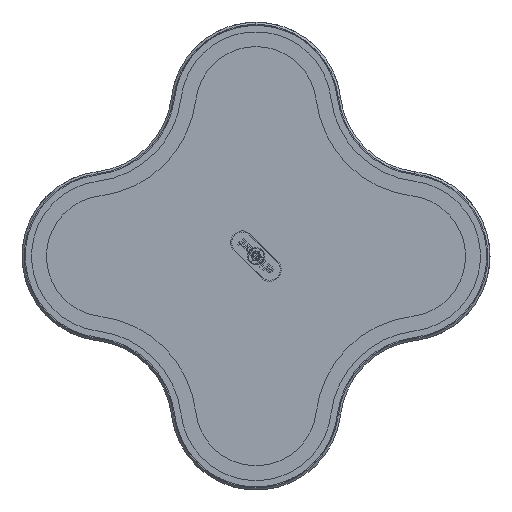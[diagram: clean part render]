
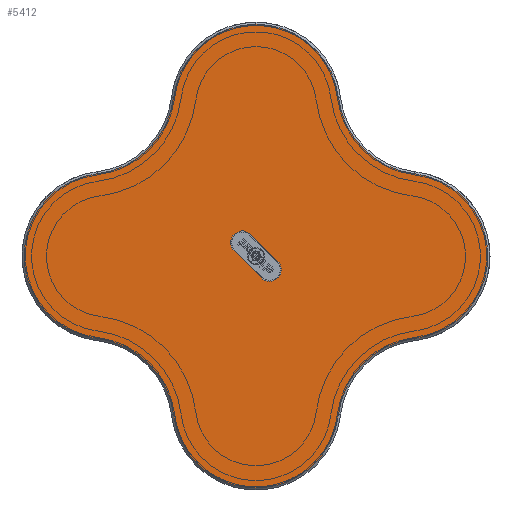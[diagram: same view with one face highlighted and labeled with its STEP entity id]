
A CAD part, front view. The second image highlights one B-rep face of the part: STEP entity #5412.
In plain terms, the highlighted planar face has unit normal (0, -1, 0) as drawn and (0, 1, 0) by its records, which use the part's own axes.
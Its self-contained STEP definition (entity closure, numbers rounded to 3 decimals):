
#11 = ORIENTED_EDGE ( 'NONE', *, *, #11437, .T. ) ;
#22 = DIRECTION ( 'NONE',  ( 0., 1., 0. ) ) ;
#274 = EDGE_CURVE ( 'NONE', #1098, #3917, #8830, .T. ) ;
#495 = CARTESIAN_POINT ( 'NONE',  ( -10.253, 8., -2.475 ) ) ;
#507 = CIRCLE ( 'NONE', #8506, 41. ) ;
#647 = CIRCLE ( 'NONE', #14745, 41. ) ;
#742 = EDGE_CURVE ( 'NONE', #1171, #5347, #9559, .T. ) ;
#817 = CIRCLE ( 'NONE', #11758, 5.5 ) ;
#1098 = VERTEX_POINT ( 'NONE', #6213 ) ;
#1171 = VERTEX_POINT ( 'NONE', #13509 ) ;
#1607 = ORIENTED_EDGE ( 'NONE', *, *, #12494, .T. ) ;
#1648 = VERTEX_POINT ( 'NONE', #14244 ) ;
#1693 = DIRECTION ( 'NONE',  ( 0.707, 0., 0.707 ) ) ;
#1827 = DIRECTION ( 'NONE',  ( 0., -1., 0. ) ) ;
#1887 = FACE_BOUND ( 'NONE', #9430, .T. ) ;
#1900 = CARTESIAN_POINT ( 'NONE',  ( 74.72, 8., -39.72 ) ) ;
#1921 = DIRECTION ( 'NONE',  ( 0., 1., 0. ) ) ;
#1936 = ORIENTED_EDGE ( 'NONE', *, *, #6612, .T. ) ;
#2000 = EDGE_CURVE ( 'NONE', #5347, #14915, #4922, .T. ) ;
#2082 = DIRECTION ( 'NONE',  ( 0., 1., 0. ) ) ;
#2132 = CARTESIAN_POINT ( 'NONE',  ( -74.602, 8., 38.727 ) ) ;
#2135 = CARTESIAN_POINT ( 'NONE',  ( 79.441, 8., -79.441 ) ) ;
#2325 = EDGE_CURVE ( 'NONE', #3917, #12461, #13232, .T. ) ;
#2461 = CARTESIAN_POINT ( 'NONE',  ( -38.727, 8., -74.602 ) ) ;
#2652 = EDGE_CURVE ( 'NONE', #4383, #1098, #5997, .T. ) ;
#2761 = EDGE_CURVE ( 'NONE', #7361, #9591, #3774, .T. ) ;
#2847 = CARTESIAN_POINT ( 'NONE',  ( 6.364, 8., 11.864 ) ) ;
#2911 = EDGE_CURVE ( 'NONE', #14915, #5010, #3208, .T. ) ;
#2919 = PLANE ( 'NONE',  #11738 ) ;
#3038 = EDGE_CURVE ( 'NONE', #11275, #1648, #9853, .T. ) ;
#3047 = DIRECTION ( 'NONE',  ( 0., 1., 0. ) ) ;
#3208 = CIRCLE ( 'NONE', #7328, 39. ) ;
#3478 = CARTESIAN_POINT ( 'NONE',  ( -2.475, 8., -10.253 ) ) ;
#3517 = CARTESIAN_POINT ( 'NONE',  ( 70., 8., 0. ) ) ;
#3579 = CARTESIAN_POINT ( 'NONE',  ( -79.441, 8., 79.441 ) ) ;
#3582 = ORIENTED_EDGE ( 'NONE', *, *, #2652, .F. ) ;
#3774 = CIRCLE ( 'NONE', #9499, 39. ) ;
#3917 = VERTEX_POINT ( 'NONE', #9888 ) ;
#4093 = DIRECTION ( 'NONE',  ( 0., 0., 1. ) ) ;
#4367 = CIRCLE ( 'NONE', #13332, 39. ) ;
#4383 = VERTEX_POINT ( 'NONE', #2847 ) ;
#4720 = DIRECTION ( 'NONE',  ( 0., 1., 0. ) ) ;
#4885 = VECTOR ( 'NONE', #1693, 1000. ) ;
#4922 = CIRCLE ( 'NONE', #7419, 39. ) ;
#4970 = AXIS2_PLACEMENT_3D ( 'NONE', #5566, #3047, #11309 ) ;
#5010 = VERTEX_POINT ( 'NONE', #2461 ) ;
#5249 = ORIENTED_EDGE ( 'NONE', *, *, #274, .F. ) ;
#5347 = VERTEX_POINT ( 'NONE', #10638 ) ;
#5378 = CARTESIAN_POINT ( 'NONE',  ( -79.441, 8., -79.441 ) ) ;
#5412 = ADVANCED_FACE ( 'NONE', ( #1887, #11523 ), #2919, .T. ) ;
#5521 = ORIENTED_EDGE ( 'NONE', *, *, #2000, .T. ) ;
#5566 = CARTESIAN_POINT ( 'NONE',  ( 6.364, 8., 6.364 ) ) ;
#5668 = CARTESIAN_POINT ( 'NONE',  ( 0., 8., -109. ) ) ;
#5997 = CIRCLE ( 'NONE', #4970, 5.5 ) ;
#6115 = DIRECTION ( 'NONE',  ( 0., 0., 1. ) ) ;
#6213 = CARTESIAN_POINT ( 'NONE',  ( 10.253, 8., 2.475 ) ) ;
#6354 = DIRECTION ( 'NONE',  ( 0., -1., 0. ) ) ;
#6547 = DIRECTION ( 'NONE',  ( 0., 0., 1. ) ) ;
#6612 = EDGE_CURVE ( 'NONE', #1648, #11651, #647, .T. ) ;
#6791 = CIRCLE ( 'NONE', #12237, 41. ) ;
#6895 = CARTESIAN_POINT ( 'NONE',  ( -70., 8., 0. ) ) ;
#6929 = DIRECTION ( 'NONE',  ( 0., 0., 1. ) ) ;
#7028 = CARTESIAN_POINT ( 'NONE',  ( 6.364, 8., 6.364 ) ) ;
#7076 = DIRECTION ( 'NONE',  ( 0., 0., 1. ) ) ;
#7328 = AXIS2_PLACEMENT_3D ( 'NONE', #10476, #22, #11821 ) ;
#7361 = VERTEX_POINT ( 'NONE', #10144 ) ;
#7419 = AXIS2_PLACEMENT_3D ( 'NONE', #10416, #2082, #12651 ) ;
#7784 = DIRECTION ( 'NONE',  ( 0., 0., 1. ) ) ;
#7991 = ORIENTED_EDGE ( 'NONE', *, *, #2761, .T. ) ;
#8087 = DIRECTION ( 'NONE',  ( 0., -1., 0. ) ) ;
#8128 = ORIENTED_EDGE ( 'NONE', *, *, #2911, .T. ) ;
#8131 = ORIENTED_EDGE ( 'NONE', *, *, #12474, .F. ) ;
#8159 = CARTESIAN_POINT ( 'NONE',  ( -10.253, 8., -2.475 ) ) ;
#8163 = DIRECTION ( 'NONE',  ( -0.707, 0., -0.707 ) ) ;
#8226 = EDGE_LOOP ( 'NONE', ( #13661, #5521, #8128, #13489, #7991, #11, #10436, #1936, #1607 ) ) ;
#8325 = DIRECTION ( 'NONE',  ( 0., 1., 0. ) ) ;
#8506 = AXIS2_PLACEMENT_3D ( 'NONE', #5378, #6354, #6547 ) ;
#8830 = LINE ( 'NONE', #3478, #13658 ) ;
#9165 = DIRECTION ( 'NONE',  ( 0., 0., 1. ) ) ;
#9413 = DIRECTION ( 'NONE',  ( 0., 0., 1. ) ) ;
#9416 = DIRECTION ( 'NONE',  ( 0., 0., 1. ) ) ;
#9430 = EDGE_LOOP ( 'NONE', ( #14997, #5249, #3582, #8131, #12663 ) ) ;
#9499 = AXIS2_PLACEMENT_3D ( 'NONE', #6895, #1921, #10198 ) ;
#9559 = CIRCLE ( 'NONE', #14482, 41. ) ;
#9576 = DIRECTION ( 'NONE',  ( 0., -1., 0. ) ) ;
#9591 = VERTEX_POINT ( 'NONE', #2132 ) ;
#9853 = CIRCLE ( 'NONE', #11074, 39. ) ;
#9888 = CARTESIAN_POINT ( 'NONE',  ( -2.475, 8., -10.253 ) ) ;
#9930 = EDGE_CURVE ( 'NONE', #5010, #7361, #507, .T. ) ;
#10144 = CARTESIAN_POINT ( 'NONE',  ( -74.602, 8., -38.727 ) ) ;
#10198 = DIRECTION ( 'NONE',  ( 0., 0., 1. ) ) ;
#10217 = CARTESIAN_POINT ( 'NONE',  ( 79.441, 8., 79.441 ) ) ;
#10416 = CARTESIAN_POINT ( 'NONE',  ( 0., 8., -70. ) ) ;
#10436 = ORIENTED_EDGE ( 'NONE', *, *, #3038, .T. ) ;
#10476 = CARTESIAN_POINT ( 'NONE',  ( 0., 8., -70. ) ) ;
#10638 = CARTESIAN_POINT ( 'NONE',  ( 38.727, 8., -74.602 ) ) ;
#10869 = CARTESIAN_POINT ( 'NONE',  ( 0., 8., 70. ) ) ;
#11074 = AXIS2_PLACEMENT_3D ( 'NONE', #10869, #12087, #6115 ) ;
#11176 = DIRECTION ( 'NONE',  ( 0., 1., 0. ) ) ;
#11275 = VERTEX_POINT ( 'NONE', #13725 ) ;
#11309 = DIRECTION ( 'NONE',  ( 0., 0., 1. ) ) ;
#11437 = EDGE_CURVE ( 'NONE', #9591, #11275, #6791, .T. ) ;
#11438 = VERTEX_POINT ( 'NONE', #14163 ) ;
#11523 = FACE_OUTER_BOUND ( 'NONE', #8226, .T. ) ;
#11651 = VERTEX_POINT ( 'NONE', #12128 ) ;
#11738 = AXIS2_PLACEMENT_3D ( 'NONE', #1900, #11176, #4093 ) ;
#11758 = AXIS2_PLACEMENT_3D ( 'NONE', #7028, #14049, #6929 ) ;
#11821 = DIRECTION ( 'NONE',  ( 0., 0., 1. ) ) ;
#11922 = LINE ( 'NONE', #495, #4885 ) ;
#12087 = DIRECTION ( 'NONE',  ( 0., 1., 0. ) ) ;
#12128 = CARTESIAN_POINT ( 'NONE',  ( 74.602, 8., 38.727 ) ) ;
#12237 = AXIS2_PLACEMENT_3D ( 'NONE', #3579, #9576, #9416 ) ;
#12461 = VERTEX_POINT ( 'NONE', #8159 ) ;
#12474 = EDGE_CURVE ( 'NONE', #11438, #4383, #817, .T. ) ;
#12494 = EDGE_CURVE ( 'NONE', #11651, #1171, #4367, .T. ) ;
#12651 = DIRECTION ( 'NONE',  ( 0., 0., 1. ) ) ;
#12663 = ORIENTED_EDGE ( 'NONE', *, *, #15332, .F. ) ;
#12979 = AXIS2_PLACEMENT_3D ( 'NONE', #14220, #8325, #9413 ) ;
#13232 = CIRCLE ( 'NONE', #12979, 5.5 ) ;
#13332 = AXIS2_PLACEMENT_3D ( 'NONE', #3517, #4720, #7076 ) ;
#13489 = ORIENTED_EDGE ( 'NONE', *, *, #9930, .T. ) ;
#13509 = CARTESIAN_POINT ( 'NONE',  ( 74.602, 8., -38.727 ) ) ;
#13658 = VECTOR ( 'NONE', #8163, 1000. ) ;
#13661 = ORIENTED_EDGE ( 'NONE', *, *, #742, .T. ) ;
#13725 = CARTESIAN_POINT ( 'NONE',  ( -38.727, 8., 74.602 ) ) ;
#14049 = DIRECTION ( 'NONE',  ( 0., 1., 0. ) ) ;
#14163 = CARTESIAN_POINT ( 'NONE',  ( 2.475, 8., 10.253 ) ) ;
#14220 = CARTESIAN_POINT ( 'NONE',  ( -6.364, 8., -6.364 ) ) ;
#14244 = CARTESIAN_POINT ( 'NONE',  ( 38.727, 8., 74.602 ) ) ;
#14482 = AXIS2_PLACEMENT_3D ( 'NONE', #2135, #8087, #9165 ) ;
#14745 = AXIS2_PLACEMENT_3D ( 'NONE', #10217, #1827, #7784 ) ;
#14915 = VERTEX_POINT ( 'NONE', #5668 ) ;
#14997 = ORIENTED_EDGE ( 'NONE', *, *, #2325, .F. ) ;
#15332 = EDGE_CURVE ( 'NONE', #12461, #11438, #11922, .T. ) ;
